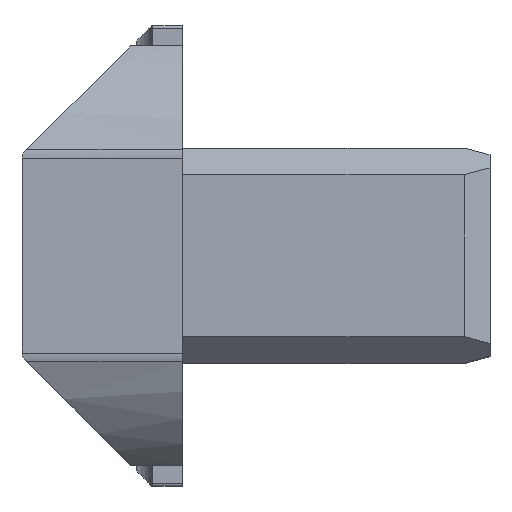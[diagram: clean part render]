
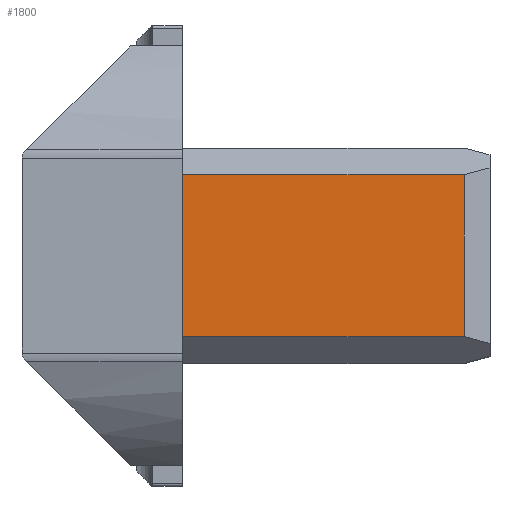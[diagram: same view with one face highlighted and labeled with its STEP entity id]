
A CAD part, top view. The second image highlights one B-rep face of the part: STEP entity #1800.
In plain terms, the highlighted planar face has unit normal (0, 0, 1).
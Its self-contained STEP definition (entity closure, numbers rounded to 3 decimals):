
#37 = ORIENTED_EDGE ( 'NONE', *, *, #1642, .T. ) ;
#157 = PLANE ( 'NONE',  #852 ) ;
#373 = VECTOR ( 'NONE', #603, 1000. ) ;
#391 = VERTEX_POINT ( 'NONE', #1096 ) ;
#428 = CARTESIAN_POINT ( 'NONE',  ( 43., -7.9, 10.5 ) ) ;
#431 = DIRECTION ( 'NONE',  ( 0., 1., 0. ) ) ;
#503 = FACE_OUTER_BOUND ( 'NONE', #1671, .T. ) ;
#536 = CARTESIAN_POINT ( 'NONE',  ( 13., -7.9, 10.5 ) ) ;
#541 = VERTEX_POINT ( 'NONE', #536 ) ;
#564 = ORIENTED_EDGE ( 'NONE', *, *, #1672, .T. ) ;
#603 = DIRECTION ( 'NONE',  ( -1., 0., 0. ) ) ;
#693 = DIRECTION ( 'NONE',  ( 0., -1., 0. ) ) ;
#732 = LINE ( 'NONE', #428, #1411 ) ;
#796 = DIRECTION ( 'NONE',  ( 0., 1., 0. ) ) ;
#852 = AXIS2_PLACEMENT_3D ( 'NONE', #1736, #1230, #796 ) ;
#981 = VECTOR ( 'NONE', #693, 1000. ) ;
#1059 = LINE ( 'NONE', #1373, #373 ) ;
#1072 = CARTESIAN_POINT ( 'NONE',  ( 40.5, -10.5, 10.5 ) ) ;
#1096 = CARTESIAN_POINT ( 'NONE',  ( 40.5, 7.9, 10.5 ) ) ;
#1108 = VERTEX_POINT ( 'NONE', #1791 ) ;
#1131 = LINE ( 'NONE', #1767, #981 ) ;
#1182 = DIRECTION ( 'NONE',  ( 1., 0., 0. ) ) ;
#1187 = ORIENTED_EDGE ( 'NONE', *, *, #1947, .T. ) ;
#1230 = DIRECTION ( 'NONE',  ( 0., 0., -1. ) ) ;
#1256 = EDGE_CURVE ( 'NONE', #1108, #391, #1344, .T. ) ;
#1344 = LINE ( 'NONE', #1072, #1596 ) ;
#1373 = CARTESIAN_POINT ( 'NONE',  ( 43., 7.9, 10.5 ) ) ;
#1411 = VECTOR ( 'NONE', #1182, 1000. ) ;
#1596 = VECTOR ( 'NONE', #431, 1000. ) ;
#1642 = EDGE_CURVE ( 'NONE', #391, #1963, #1059, .T. ) ;
#1671 = EDGE_LOOP ( 'NONE', ( #564, #1968, #37, #1187 ) ) ;
#1672 = EDGE_CURVE ( 'NONE', #541, #1108, #732, .T. ) ;
#1736 = CARTESIAN_POINT ( 'NONE',  ( 43., -10.5, 10.5 ) ) ;
#1756 = CARTESIAN_POINT ( 'NONE',  ( 13., 7.9, 10.5 ) ) ;
#1767 = CARTESIAN_POINT ( 'NONE',  ( 13., -10.5, 10.5 ) ) ;
#1791 = CARTESIAN_POINT ( 'NONE',  ( 40.5, -7.9, 10.5 ) ) ;
#1800 = ADVANCED_FACE ( 'NONE', ( #503 ), #157, .F. ) ;
#1947 = EDGE_CURVE ( 'NONE', #1963, #541, #1131, .T. ) ;
#1963 = VERTEX_POINT ( 'NONE', #1756 ) ;
#1968 = ORIENTED_EDGE ( 'NONE', *, *, #1256, .T. ) ;
